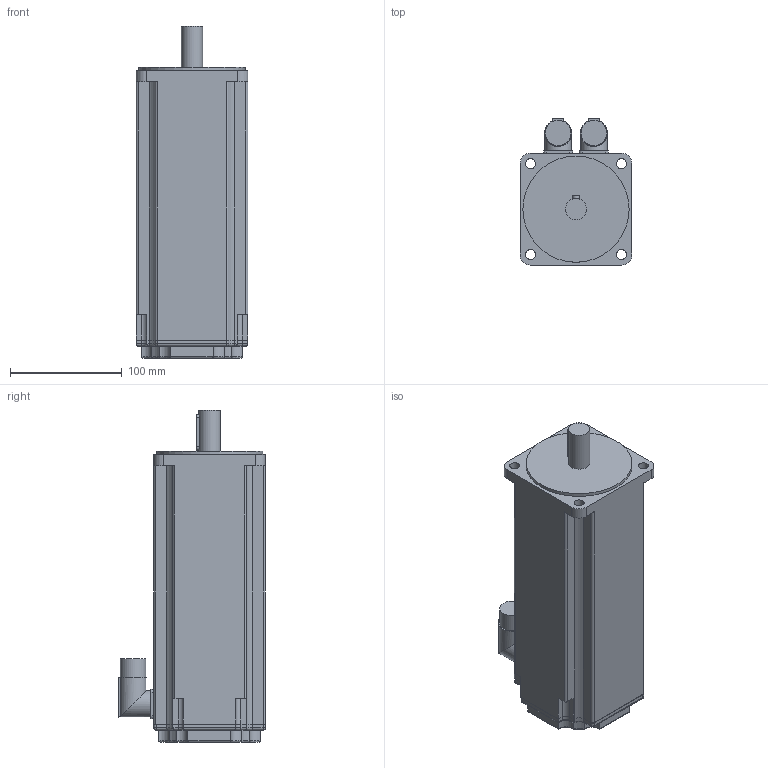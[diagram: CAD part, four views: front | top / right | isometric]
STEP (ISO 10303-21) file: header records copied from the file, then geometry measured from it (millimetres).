
FILE_DESCRIPTION(/* description */ (''),/* implementation_level */ '2;1');
FILE_NAME(/* name */ '\\Lafnas01\disegni\Archivi Lafert\3D\CAD 3D\MODELLI\Assiemi clienti\Serad\Modelli 3D Serad\B63Q\Encoder\Enc With Brake\B6310Qxx6BRx2033.ipt.stp',/* time_stamp */ '2015-09-07T10:50:57+02:00',/* author */ ('Pastrello Ylenia'),/* organization */ (''),/* preprocessor_version */ 'ST-DEVELOPER v15.6',/* originating_system */ 'Autodesk Inventor 2015',/* authorisation */ '');
FILE_SCHEMA (('AUTOMOTIVE_DESIGN { 1 0 10303 214 3 1 1 }'));
Length unit declared in the file: millimetre
Products named in the file (1): B6310Qxx6BRx2033
Bounding box: 100 x 131.5 x 297 mm (x, y, z)
Volume: 2343110 mm3; surface area: 129719.3 mm2
Topology: 1 solids, 1 shells, 195 faces, 500 edges, 318 vertices
Faces by surface type: cylinder 90, plane 81, torus 20, sphere 4
Full cylindrical faces by diameter (mm): 9 x4, 19 x1, 22.7 x2, 24 x2, 95 x1
Entity records: 6152 total; most frequent: CARTESIAN_POINT 1342, DIRECTION 1030, ORIENTED_EDGE 972, EDGE_CURVE 486, AXIS2_PLACEMENT_3D 374, VERTEX_POINT 314, LINE 282, VECTOR 282
